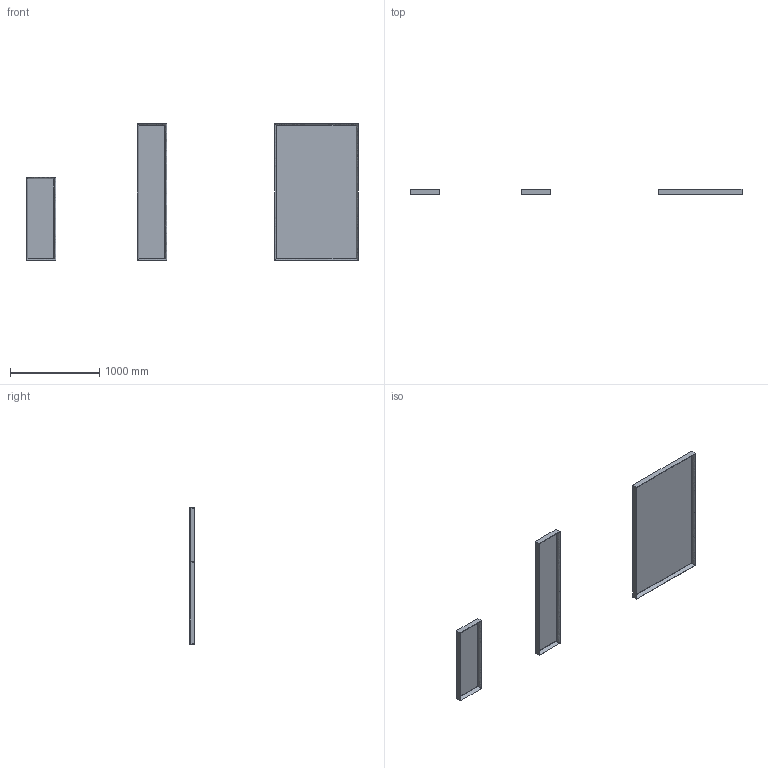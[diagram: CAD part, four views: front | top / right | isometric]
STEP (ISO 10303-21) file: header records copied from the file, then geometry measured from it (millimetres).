
FILE_DESCRIPTION(/* description */ (''),/* implementation_level */ '2;1');
FILE_NAME(/* name */ '2924XX~1',/* time_stamp */ '2023-09-01T15:10:48+02:00',/* author */ (''),/* organization */ (''),/* preprocessor_version */ 'ST-DEVELOPER v16.5',/* originating_system */ '',/* authorisation */ '');
FILE_SCHEMA (('AUTOMOTIVE_DESIGN'));
Length unit declared in the file: millimetre
Products named in the file (1): Document
Bounding box: 3715.42 x 62 x 1532.29 mm (x, y, z)
Volume: 8280000 mm3; surface area: 5833762.2 mm2
Topology: 3 solids, 15 shells, 78 faces, 219 edges, 147 vertices
Faces by surface type: bspline 60, plane 18
Entity records: 3581 total; most frequent: CARTESIAN_POINT 2261, ORIENTED_EDGE 312, B_SPLINE_CURVE_WITH_KNOTS 219, EDGE_CURVE 216, VERTEX_POINT 144, ADVANCED_FACE 78, FACE_OUTER_BOUND 78, EDGE_LOOP 78
